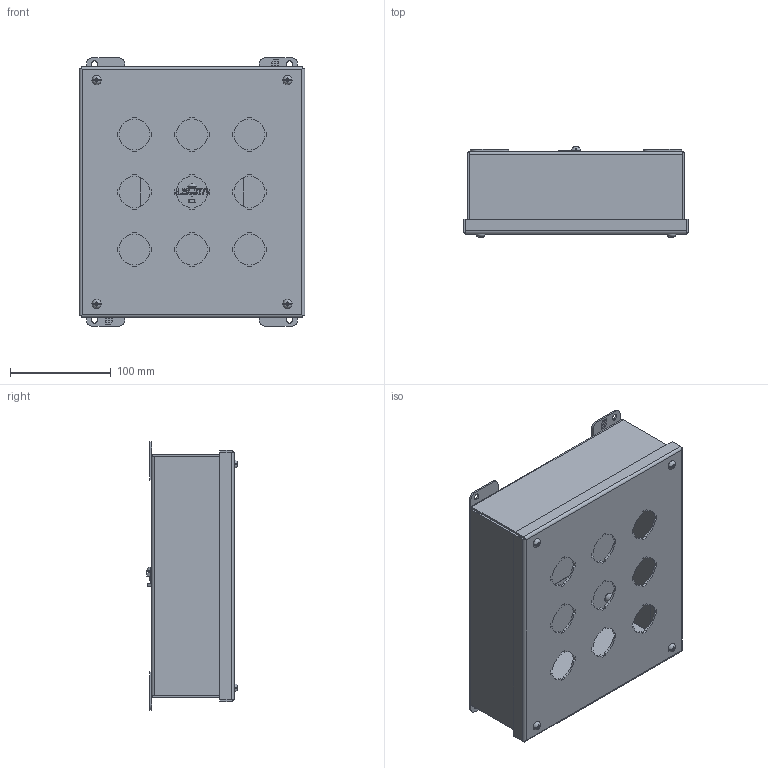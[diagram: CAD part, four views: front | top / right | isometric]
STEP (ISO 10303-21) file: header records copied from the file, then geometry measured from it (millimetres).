
FILE_DESCRIPTION(/* description */ ('Unknown'),/* implementation_level */ '2;1');
FILE_NAME(/* name */ '1435K',/* time_stamp */ '2018-12-19T14:26:28-05:00',/* author */ ('Unknown'),/* organization */ ('Unknown'),/* preprocessor_version */ 'ST-DEVELOPER v16.7',/* originating_system */ 'DEX',/* authorisation */ $);
FILE_SCHEMA (('AUTOMOTIVE_DESIGN {1 0 10303 214 3 1 1}'));
Length unit declared in the file: millimetre
Products named in the file (21): 1435K; COM50822; AKT90316; RNG17670; SCS19475; COM44078; GSK11030; STD26152; RVN01002; COM44197; std26020; COM44189; KIT95027; NTS17050; NTS16500; LAB30005; WAF250205; WAL251505; scs18968; QLB20279
Assembly tree (30 placements, depth 3):
  1435K
    COM50822  x4
    AKT90316  x4
      RNG17670
      SCS19475
    COM44078
    GSK11030
    STD26152
    RVN01002  x4
    COM44197
      std26020
      COM44189  x2
      COM44197
    KIT95027
      NTS17050
      NTS16500
      LAB30005
      WAF250205
      WAL251505
      scs18968
    QLB20279
Bounding box: 223.82 x 89.97 x 266.7 mm (x, y, z)
Volume: 413087.2 mm3; surface area: 439516.8 mm2
Topology: 29 solids, 29 shells, 977 faces, 2557 edges, 1681 vertices
Faces by surface type: plane 711, cylinder 203, bspline 37, cone 16, torus 10
Full cylindrical faces by diameter (mm): 3.759 x4, 3.967 x3, 4.039 x4, 4.699 x1, 4.775 x1, 4.826 x4, 5.461 x1, 6.35 x9, 6.985 x4, 9.525 x2, 9.779 x1, 9.906 x4, 10.312 x4, 12.7 x1
Entity records: 23358 total; most frequent: CARTESIAN_POINT 6835, ORIENTED_EDGE 3366, DIRECTION 3156, EDGE_CURVE 1683, LINE 1190, VECTOR 1190, VERTEX_POINT 1120, AXIS2_PLACEMENT_3D 983
